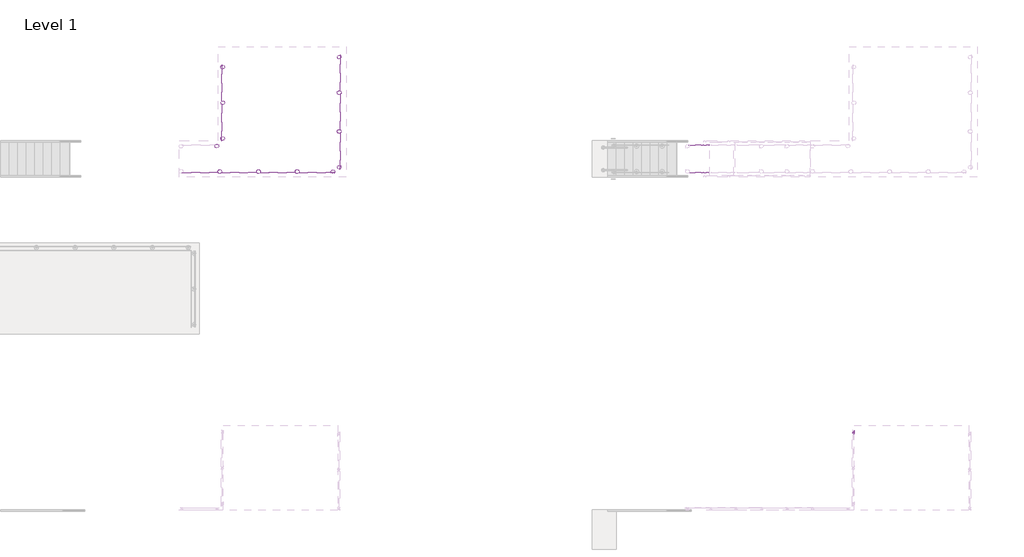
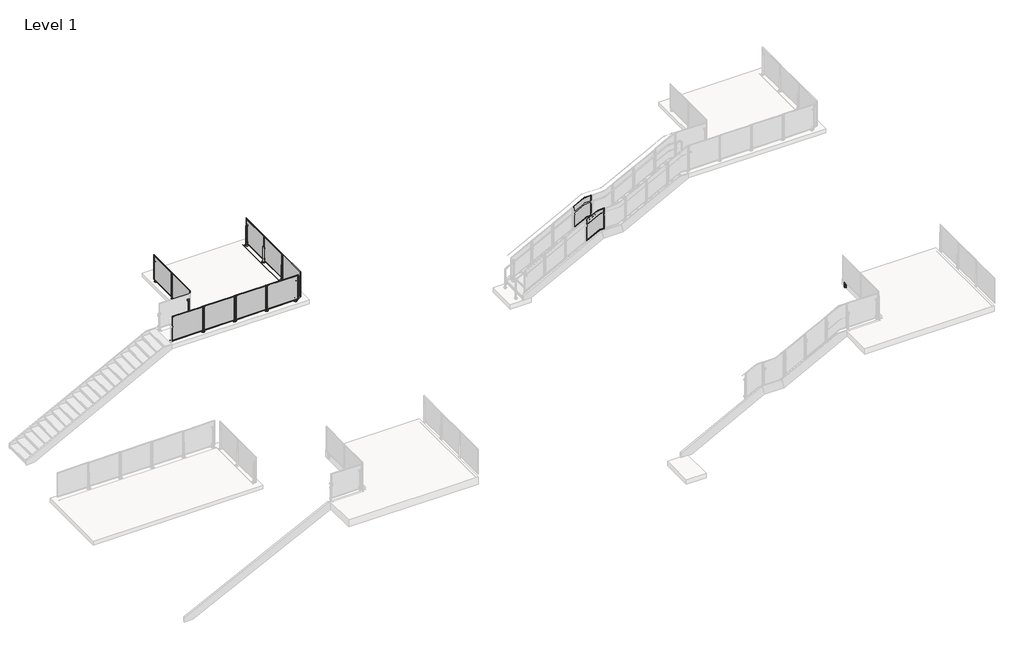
# One storey, part 22 of 28: 7 proxies, 5 railings.
"""IFC4 building model written with IfcOpenShell, lengths in millimetres."""

from ifc_helpers import new_model, si_unit, point, frame, frame_2d, origin, place, context, project, spatial, polyline, circle_curve, trimmed, segment, composite_curve, outline, extrude, transform, mapped, element, save
from components import building_element_proxy_d74b3768, building_element_proxy_f0dd287b, building_element_proxy_bc1e0d3e, standard_pp01_c8bfe862, standard_pp01_6f34aec3

model = new_model("IFC4")

# Units and contexts
model_context = context("Model", 3, world=origin())
ifc_project = project(units=[si_unit("LENGTHUNIT", "METRE", prefix="MILLI")], contexts=[model_context])

# Site, building, storey
site = spatial("IfcSite", under=ifc_project)
building = spatial("IfcBuilding", under=site)
storey = spatial("IfcBuildingStorey", under=building, Name="Level 1", Elevation=0.0)

# Proxies
placement = place(None, origin())
building_element_proxy_shape = building_element_proxy_d74b3768(model_context)
element("IfcBuildingElementProxy", 1, Name="Baluster-End-Post-VIVA-STRUC-Top Mount : CORED INTO CONCRETE_TOP MOUNT STRUC_STRAIGHT", ObjectType="Baluster-End-Post-VIVA-STRUC-Top Mount : CORED INTO CONCRETE_TOP MOUNT STRUC_STRAIGHT", at=placement, inside=storey, context=model_context, shape_type="MappedRepresentation", body=[
    mapped(building_element_proxy_shape, transform((-27921.9231424, 8555.589491, 3047.492), x_axis=(0.0, 1.0, 0.0), y_axis=(-1.0, 0.0, 0.0), z_axis=(0.0, 0.0, 1.0))),
])
building_element_proxy_2_shape = building_element_proxy_f0dd287b(model_context)
element("IfcBuildingElementProxy", 2, Name="Baluster-End-Post-VIVA-STRUC-Top Mount : WELDED Fascia MOUNT STRUC_STRAIGHT", ObjectType="Baluster-End-Post-VIVA-STRUC-Top Mount : WELDED Fascia MOUNT STRUC_STRAIGHT", at=placement, inside=storey, context=model_context, shape_type="MappedRepresentation", body=[
    mapped(building_element_proxy_2_shape, transform((-10837.0049728, 33.6273492, 3047.492), x_axis=(0.0, -1.0, 0.0), y_axis=(1.0, 0.0, 0.0), z_axis=(0.0, 0.0, 1.0))),
])
building_element_proxy_3_shape = building_element_proxy_bc1e0d3e(model_context)
element("IfcBuildingElementProxy", 3, Name="Baluster-End-Post-VIVA-STRUC-Top Mount : CORED INTO CONCRETE_TOP MOUNT STRUC_STRAIGHT", ObjectType="Baluster-End-Post-VIVA-STRUC-Top Mount : CORED INTO CONCRETE_TOP MOUNT STRUC_STRAIGHT", at=placement, inside=storey, context=model_context, shape_type="MappedRepresentation", body=[
    mapped(building_element_proxy_3_shape, transform((-27936.8813244, 8601.891307, 3047.492), x_axis=(1.0, 0.0, 0.0), y_axis=(0.0, 1.0, 0.0), z_axis=(0.0, 0.0, 1.0))),
])
element("IfcBuildingElementProxy", 4, Name="Baluster-End-Post-VIVA-STRUC-Top Mount : CORED INTO CONCRETE_TOP MOUNT STRUC_STRAIGHT", ObjectType="Baluster-End-Post-VIVA-STRUC-Top Mount : CORED INTO CONCRETE_TOP MOUNT STRUC_STRAIGHT", at=placement, inside=storey, context=model_context, shape_type="MappedRepresentation", body=[
    mapped(building_element_proxy_3_shape, transform((-31557.1485244, 9498.7985341, 3047.492), x_axis=(0.0, -1.0, 0.0), y_axis=(1.0, 0.0, 0.0), z_axis=(0.0, 0.0, 1.0))),
])
element("IfcBuildingElementProxy", 5, Name="Baluster-End-Post-VIVA-STRUC-Top Mount : CORED INTO CONCRETE_TOP MOUNT STRUC_STRAIGHT", ObjectType="Baluster-End-Post-VIVA-STRUC-Top Mount : CORED INTO CONCRETE_TOP MOUNT STRUC_STRAIGHT", at=placement, inside=storey, context=model_context, shape_type="MappedRepresentation", body=[
    mapped(building_element_proxy_shape, transform((-31557.1485244, 12038.7985341, 3047.492), x_axis=(0.0, -1.0, 0.0), y_axis=(1.0, 0.0, 0.0), z_axis=(0.0, 0.0, 1.0))),
])
element("IfcBuildingElementProxy", 6, Name="Baluster-End-Post-VIVA-STRUC-Top Mount : CORED INTO CONCRETE_TOP MOUNT STRUC_STRAIGHT", ObjectType="Baluster-End-Post-VIVA-STRUC-Top Mount : CORED INTO CONCRETE_TOP MOUNT STRUC_STRAIGHT", at=placement, inside=storey, context=model_context, shape_type="MappedRepresentation", body=[
    mapped(building_element_proxy_shape, transform((-31746.8813244, 9250.4962374, 3047.492), x_axis=(-1.0, 0.0, 0.0), y_axis=(0.0, -1.0, 0.0), z_axis=(0.0, 0.0, 1.0))),
])
element("IfcBuildingElementProxy", 7, Name="Baluster-End-Post-VIVA-STRUC-Top Mount : CORED INTO CONCRETE_TOP MOUNT STRUC_STRAIGHT", ObjectType="Baluster-End-Post-VIVA-STRUC-Top Mount : CORED INTO CONCRETE_TOP MOUNT STRUC_STRAIGHT", at=placement, inside=storey, context=model_context, shape_type="MappedRepresentation", body=[
    mapped(building_element_proxy_3_shape, transform((-27921.9231424, 12365.589491, 3047.492), x_axis=(0.0, 1.0, 0.0), y_axis=(-1.0, 0.0, 0.0), z_axis=(0.0, 0.0, 1.0))),
])

# Railings
element("IfcRailing", 8, ObjectType="Metal-Panel-VIVA-STRUC-Top_Core-Straight", at=placement, inside=storey, context=model_context, shape_type="SweptSolid", body=[
    extrude(outline(composite_curve([segment(trimmed(circle_curve(frame_2d((8601.891307, 3047.746)), 0.254), [point((8601.637307, 3047.746))], [point((8602.145307, 3047.746))], False, "CARTESIAN"), True, "CONTINUOUS"), segment(trimmed(circle_curve(frame_2d((8601.891307, 3047.746)), 0.254), [point((8602.145307, 3047.746))], [point((8601.637307, 3047.746))], False, "CARTESIAN"), True, "CONTINUOUS")], self_intersect=False)), frame((-33016.8813244, 0.0, 0.0), z_axis=(1.0, 0.0, 0.0), x_axis=(0.0, 1.0, 0.0)), (0.0, 0.0, 1.0), 5080.0),
    extrude(outline(composite_curve([segment(trimmed(circle_curve(frame_2d((8601.891307, 3047.746)), 0.254), [point((8601.637307, 3047.746))], [point((8602.145307, 3047.746))], False, "CARTESIAN"), True, "CONTINUOUS"), segment(trimmed(circle_curve(frame_2d((8601.891307, 3047.746)), 0.254), [point((8602.145307, 3047.746))], [point((8601.637307, 3047.746))], False, "CARTESIAN"), True, "CONTINUOUS")], self_intersect=False)), frame((-33016.8813244, 0.0, 0.0), z_axis=(1.0, 0.0, 0.0), x_axis=(0.0, 1.0, 0.0)), (0.0, 0.0, 1.0), 5080.0),
    extrude(outline(polyline([(-29166.0548675, 8475.042307), (-29166.0548675, 8478.042307), (-27977.7077814, 8478.042307), (-27977.7077814, 8475.042307), (-29166.0548675, 8475.042307)])), frame((0.0, 0.0, 3124.1959569), z_axis=(0.0, 0.0, 1.0), x_axis=(1.0, 0.0, 0.0)), (0.0, 0.0, 1.0), 990.5826861),
    extrude(outline(polyline([(3098.7959569, -29191.4548675), (3098.7959569, -27952.3077814), (4140.1786431, -27952.3077814), (4140.1786431, -29191.4548675), (3098.7959569, -29191.4548675)]), holes=[polyline([(4114.7786431, -29166.0548675), (4114.7786431, -27977.7077814), (3124.1959569, -27977.7077814), (3124.1959569, -29166.0548675), (4114.7786431, -29166.0548675)])]), frame((0.0, 8468.517307, 0.0), z_axis=(0.0, 1.0, 0.0), x_axis=(0.0, 0.0, 1.0)), (0.0, 0.0, 1.0), 9.525),
    extrude(outline(polyline([(-29244.9820437, 8485.152907), (-29168.7806052, 8485.152907), (-29168.7806052, 8478.040907), (-29244.9820437, 8478.040907), (-29244.9820437, 8485.152907)])), frame((0.0, 0.0, 3617.976), z_axis=(0.0, 0.0, 1.0), x_axis=(1.0, 0.0, 0.0)), (0.0, 0.0, 1.0), 50.8),
    extrude(outline(polyline([(-29244.9820437, 8485.152907), (-29168.7806052, 8485.152907), (-29168.7806052, 8478.040907), (-29244.9820437, 8478.040907), (-29244.9820437, 8485.152907)])), frame((0.0, 0.0, 3160.776), z_axis=(0.0, 0.0, 1.0), x_axis=(1.0, 0.0, 0.0)), (0.0, 0.0, 1.0), 50.8),
    extrude(outline(composite_curve([segment(trimmed(circle_curve(frame_2d((-29206.8813244, 8507.377907)), 65.8876), [point((-29206.8813244, 8441.490307))], [point((-29206.8813244, 8573.265507))], False, "CARTESIAN"), True, "CONTINUOUS"), segment(trimmed(circle_curve(frame_2d((-29206.8813244, 8507.377907)), 65.8876), [point((-29206.8813244, 8573.265507))], [point((-29206.8813244, 8441.490307))], False, "CARTESIAN"), True, "CONTINUOUS")], self_intersect=False)), frame((0.0, 0.0, 3048.0), z_axis=(0.0, 0.0, 1.0), x_axis=(1.0, 0.0, 0.0)), (0.0, 0.0, 1.0), 2.9821299),
    extrude(outline(polyline([(-29214.8209161, 8529.602907), (-29198.9417328, 8529.602907), (-29198.9417328, 8485.152907), (-29214.8209161, 8485.152907), (-29214.8209161, 8529.602907)])), frame((0.0, 0.0, 2946.4), z_axis=(0.0, 0.0, 1.0), x_axis=(1.0, 0.0, 0.0)), (0.0, 0.0, 1.0), 762.0),
    extrude(outline(polyline([(-30436.0548675, 8475.042307), (-30436.0548675, 8478.042307), (-29247.7077814, 8478.042307), (-29247.7077814, 8475.042307), (-30436.0548675, 8475.042307)])), frame((0.0, 0.0, 3124.1959569), z_axis=(0.0, 0.0, 1.0), x_axis=(1.0, 0.0, 0.0)), (0.0, 0.0, 1.0), 990.5826861),
    extrude(outline(polyline([(3098.7959569, -30461.4548675), (3098.7959569, -29222.3077814), (4140.1786431, -29222.3077814), (4140.1786431, -30461.4548675), (3098.7959569, -30461.4548675)]), holes=[polyline([(4114.7786431, -30436.0548675), (4114.7786431, -29247.7077814), (3124.1959569, -29247.7077814), (3124.1959569, -30436.0548675), (4114.7786431, -30436.0548675)])]), frame((0.0, 8468.517307, 0.0), z_axis=(0.0, 1.0, 0.0), x_axis=(0.0, 0.0, 1.0)), (0.0, 0.0, 1.0), 9.525),
    extrude(outline(polyline([(-30514.9820437, 8485.152907), (-30438.7806052, 8485.152907), (-30438.7806052, 8478.040907), (-30514.9820437, 8478.040907), (-30514.9820437, 8485.152907)])), frame((0.0, 0.0, 3617.976), z_axis=(0.0, 0.0, 1.0), x_axis=(1.0, 0.0, 0.0)), (0.0, 0.0, 1.0), 50.8),
    extrude(outline(polyline([(-30514.9820437, 8485.152907), (-30438.7806052, 8485.152907), (-30438.7806052, 8478.040907), (-30514.9820437, 8478.040907), (-30514.9820437, 8485.152907)])), frame((0.0, 0.0, 3160.776), z_axis=(0.0, 0.0, 1.0), x_axis=(1.0, 0.0, 0.0)), (0.0, 0.0, 1.0), 50.8),
    extrude(outline(composite_curve([segment(trimmed(circle_curve(frame_2d((-30476.8813244, 8507.377907)), 65.8876), [point((-30476.8813244, 8441.490307))], [point((-30476.8813244, 8573.265507))], False, "CARTESIAN"), True, "CONTINUOUS"), segment(trimmed(circle_curve(frame_2d((-30476.8813244, 8507.377907)), 65.8876), [point((-30476.8813244, 8573.265507))], [point((-30476.8813244, 8441.490307))], False, "CARTESIAN"), True, "CONTINUOUS")], self_intersect=False)), frame((0.0, 0.0, 3048.0), z_axis=(0.0, 0.0, 1.0), x_axis=(1.0, 0.0, 0.0)), (0.0, 0.0, 1.0), 2.9821299),
    extrude(outline(polyline([(-30484.8209161, 8529.602907), (-30468.9417328, 8529.602907), (-30468.9417328, 8485.152907), (-30484.8209161, 8485.152907), (-30484.8209161, 8529.602907)])), frame((0.0, 0.0, 2946.4), z_axis=(0.0, 0.0, 1.0), x_axis=(1.0, 0.0, 0.0)), (0.0, 0.0, 1.0), 762.0),
    extrude(outline(polyline([(-31706.0548675, 8475.042307), (-31706.0548675, 8478.042307), (-30517.7077814, 8478.042307), (-30517.7077814, 8475.042307), (-31706.0548675, 8475.042307)])), frame((0.0, 0.0, 3124.1959569), z_axis=(0.0, 0.0, 1.0), x_axis=(1.0, 0.0, 0.0)), (0.0, 0.0, 1.0), 990.5826861),
    extrude(outline(polyline([(3098.7959569, -31731.4548675), (3098.7959569, -30492.3077814), (4140.1786431, -30492.3077814), (4140.1786431, -31731.4548675), (3098.7959569, -31731.4548675)]), holes=[polyline([(4114.7786431, -31706.0548675), (4114.7786431, -30517.7077814), (3124.1959569, -30517.7077814), (3124.1959569, -31706.0548675), (4114.7786431, -31706.0548675)])]), frame((0.0, 8468.517307, 0.0), z_axis=(0.0, 1.0, 0.0), x_axis=(0.0, 0.0, 1.0)), (0.0, 0.0, 1.0), 9.525),
    extrude(outline(polyline([(-31784.9820437, 8485.152907), (-31708.7806052, 8485.152907), (-31708.7806052, 8478.040907), (-31784.9820437, 8478.040907), (-31784.9820437, 8485.152907)])), frame((0.0, 0.0, 3617.976), z_axis=(0.0, 0.0, 1.0), x_axis=(1.0, 0.0, 0.0)), (0.0, 0.0, 1.0), 50.8),
    extrude(outline(polyline([(-31784.9820437, 8485.152907), (-31708.7806052, 8485.152907), (-31708.7806052, 8478.040907), (-31784.9820437, 8478.040907), (-31784.9820437, 8485.152907)])), frame((0.0, 0.0, 3160.776), z_axis=(0.0, 0.0, 1.0), x_axis=(1.0, 0.0, 0.0)), (0.0, 0.0, 1.0), 50.8),
    extrude(outline(composite_curve([segment(trimmed(circle_curve(frame_2d((-31746.8813244, 8507.377907)), 65.8876), [point((-31746.8813244, 8441.490307))], [point((-31746.8813244, 8573.265507))], False, "CARTESIAN"), True, "CONTINUOUS"), segment(trimmed(circle_curve(frame_2d((-31746.8813244, 8507.377907)), 65.8876), [point((-31746.8813244, 8573.265507))], [point((-31746.8813244, 8441.490307))], False, "CARTESIAN"), True, "CONTINUOUS")], self_intersect=False)), frame((0.0, 0.0, 3048.0), z_axis=(0.0, 0.0, 1.0), x_axis=(1.0, 0.0, 0.0)), (0.0, 0.0, 1.0), 2.9821299),
    extrude(outline(polyline([(-31754.8209161, 8529.602907), (-31738.9417328, 8529.602907), (-31738.9417328, 8485.152907), (-31754.8209161, 8485.152907), (-31754.8209161, 8529.602907)])), frame((0.0, 0.0, 2946.4), z_axis=(0.0, 0.0, 1.0), x_axis=(1.0, 0.0, 0.0)), (0.0, 0.0, 1.0), 762.0),
    extrude(outline(polyline([(-32976.0548675, 8475.042307), (-32976.0548675, 8478.042307), (-31787.7077814, 8478.042307), (-31787.7077814, 8475.042307), (-32976.0548675, 8475.042307)])), frame((0.0, 0.0, 3124.1959569), z_axis=(0.0, 0.0, 1.0), x_axis=(1.0, 0.0, 0.0)), (0.0, 0.0, 1.0), 990.5826861),
    extrude(outline(polyline([(3098.7959569, -33001.4548675), (3098.7959569, -31762.3077814), (4140.1786431, -31762.3077814), (4140.1786431, -33001.4548675), (3098.7959569, -33001.4548675)]), holes=[polyline([(4114.7786431, -32976.0548675), (4114.7786431, -31787.7077814), (3124.1959569, -31787.7077814), (3124.1959569, -32976.0548675), (4114.7786431, -32976.0548675)])]), frame((0.0, 8468.517307, 0.0), z_axis=(0.0, 1.0, 0.0), x_axis=(0.0, 0.0, 1.0)), (0.0, 0.0, 1.0), 9.525),
])
element("IfcRailing", 9, ObjectType="Metal-Panel-VIVA-STRUC-Top_Core-Straight", at=placement, inside=storey, context=model_context, shape_type="SweptSolid", body=[
    extrude(outline(composite_curve([segment(trimmed(circle_curve(frame_2d((3047.746, -31557.1485244)), 0.254), [point((3047.746, -31556.8945244))], [point((3047.746, -31557.4025244))], False, "CARTESIAN"), True, "CONTINUOUS"), segment(trimmed(circle_curve(frame_2d((3047.746, -31557.1485244)), 0.254), [point((3047.746, -31557.4025244))], [point((3047.746, -31556.8945244))], False, "CARTESIAN"), True, "CONTINUOUS")], self_intersect=False)), frame((0.0, 9498.7985341, 0.0), z_axis=(0.0, 1.0, 0.0), x_axis=(0.0, 0.0, 1.0)), (0.0, 0.0, 1.0), 2540.0),
    extrude(outline(composite_curve([segment(trimmed(circle_curve(frame_2d((3047.746, -31557.1485244)), 0.254), [point((3047.746, -31556.8945244))], [point((3047.746, -31557.4025244))], False, "CARTESIAN"), True, "CONTINUOUS"), segment(trimmed(circle_curve(frame_2d((3047.746, -31557.1485244)), 0.254), [point((3047.746, -31557.4025244))], [point((3047.746, -31556.8945244))], False, "CARTESIAN"), True, "CONTINUOUS")], self_intersect=False)), frame((0.0, 9498.7985341, 0.0), z_axis=(0.0, 1.0, 0.0), x_axis=(0.0, 0.0, 1.0)), (0.0, 0.0, 1.0), 2540.0),
    extrude(outline(polyline([(-31683.9975244, 10809.624991), (-31683.9975244, 11997.9720772), (-31680.9975244, 11997.9720772), (-31680.9975244, 10809.624991), (-31683.9975244, 10809.624991)])), frame((0.0, 0.0, 3124.1959569), z_axis=(0.0, 0.0, 1.0), x_axis=(1.0, 0.0, 0.0)), (0.0, 0.0, 1.0), 990.5826861),
    extrude(outline(polyline([(10784.224991, 3098.7959569), (10784.224991, 4140.1786431), (12023.3720772, 4140.1786431), (12023.3720772, 3098.7959569), (10784.224991, 3098.7959569)]), holes=[polyline([(10809.624991, 4114.7786431), (10809.624991, 3124.1959569), (11997.9720772, 3124.1959569), (11997.9720772, 4114.7786431), (10809.624991, 4114.7786431)])]), frame((-31690.5225244, 0.0, 0.0), z_axis=(1.0, 0.0, 0.0), x_axis=(0.0, 1.0, 0.0)), (0.0, 0.0, 1.0), 9.525),
    extrude(outline(polyline([(-31673.8869244, 10730.6978149), (-31680.9989244, 10730.6978149), (-31680.9989244, 10806.8992534), (-31673.8869244, 10806.8992534), (-31673.8869244, 10730.6978149)])), frame((0.0, 0.0, 3617.976), z_axis=(0.0, 0.0, 1.0), x_axis=(1.0, 0.0, 0.0)), (0.0, 0.0, 1.0), 50.8),
    extrude(outline(polyline([(-31673.8869244, 10730.6978149), (-31680.9989244, 10730.6978149), (-31680.9989244, 10806.8992534), (-31673.8869244, 10806.8992534), (-31673.8869244, 10730.6978149)])), frame((0.0, 0.0, 3160.776), z_axis=(0.0, 0.0, 1.0), x_axis=(1.0, 0.0, 0.0)), (0.0, 0.0, 1.0), 50.8),
    extrude(outline(composite_curve([segment(trimmed(circle_curve(frame_2d((-31651.6619244, 10768.7985341)), 65.8876), [point((-31717.5495244, 10768.7985341))], [point((-31585.7743244, 10768.7985341))], False, "CARTESIAN"), True, "CONTINUOUS"), segment(trimmed(circle_curve(frame_2d((-31651.6619244, 10768.7985341)), 65.8876), [point((-31585.7743244, 10768.7985341))], [point((-31717.5495244, 10768.7985341))], False, "CARTESIAN"), True, "CONTINUOUS")], self_intersect=False)), frame((0.0, 0.0, 3048.0), z_axis=(0.0, 0.0, 1.0), x_axis=(1.0, 0.0, 0.0)), (0.0, 0.0, 1.0), 2.9821299),
    extrude(outline(polyline([(-31629.4369244, 10760.8589425), (-31673.8869244, 10760.8589425), (-31673.8869244, 10776.7381258), (-31629.4369244, 10776.7381258), (-31629.4369244, 10760.8589425)])), frame((0.0, 0.0, 2946.4), z_axis=(0.0, 0.0, 1.0), x_axis=(1.0, 0.0, 0.0)), (0.0, 0.0, 1.0), 762.0),
    extrude(outline(polyline([(-31683.9975244, 9539.624991), (-31683.9975244, 10727.9720772), (-31680.9975244, 10727.9720772), (-31680.9975244, 9539.624991), (-31683.9975244, 9539.624991)])), frame((0.0, 0.0, 3124.1959569), z_axis=(0.0, 0.0, 1.0), x_axis=(1.0, 0.0, 0.0)), (0.0, 0.0, 1.0), 990.5826861),
    extrude(outline(polyline([(9514.224991, 3098.7959569), (9514.224991, 4140.1786431), (10753.3720772, 4140.1786431), (10753.3720772, 3098.7959569), (9514.224991, 3098.7959569)]), holes=[polyline([(9539.624991, 4114.7786431), (9539.624991, 3124.1959569), (10727.9720772, 3124.1959569), (10727.9720772, 4114.7786431), (9539.624991, 4114.7786431)])]), frame((-31690.5225244, 0.0, 0.0), z_axis=(1.0, 0.0, 0.0), x_axis=(0.0, 1.0, 0.0)), (0.0, 0.0, 1.0), 9.525),
])
element("IfcRailing", 10, ObjectType="Metal-Panel-VIVA-STRUC-Top_Core-Straight", at=placement, inside=storey, context=model_context, shape_type="SweptSolid", body=[
    extrude(outline(composite_curve([segment(trimmed(circle_curve(frame_2d((3047.746, -27921.9231424)), 0.254), [point((3047.746, -27921.6691424))], [point((3047.746, -27922.1771424))], False, "CARTESIAN"), True, "CONTINUOUS"), segment(trimmed(circle_curve(frame_2d((3047.746, -27921.9231424)), 0.254), [point((3047.746, -27922.1771424))], [point((3047.746, -27921.6691424))], False, "CARTESIAN"), True, "CONTINUOUS")], self_intersect=False)), frame((0.0, 8555.589491, 0.0), z_axis=(0.0, 1.0, 0.0), x_axis=(0.0, 0.0, 1.0)), (0.0, 0.0, 1.0), 3810.0),
    extrude(outline(composite_curve([segment(trimmed(circle_curve(frame_2d((3047.746, -27921.9231424)), 0.254), [point((3047.746, -27921.6691424))], [point((3047.746, -27922.1771424))], False, "CARTESIAN"), True, "CONTINUOUS"), segment(trimmed(circle_curve(frame_2d((3047.746, -27921.9231424)), 0.254), [point((3047.746, -27922.1771424))], [point((3047.746, -27921.6691424))], False, "CARTESIAN"), True, "CONTINUOUS")], self_intersect=False)), frame((0.0, 8555.589491, 0.0), z_axis=(0.0, 1.0, 0.0), x_axis=(0.0, 0.0, 1.0)), (0.0, 0.0, 1.0), 3810.0),
    extrude(outline(polyline([(-27795.0741424, 11136.415948), (-27798.0741424, 11136.415948), (-27798.0741424, 12324.7630341), (-27795.0741424, 12324.7630341), (-27795.0741424, 11136.415948)])), frame((0.0, 0.0, 3124.1959569), z_axis=(0.0, 0.0, 1.0), x_axis=(1.0, 0.0, 0.0)), (0.0, 0.0, 1.0), 990.5826861),
    extrude(outline(polyline([(11111.015948, 4140.1786431), (12350.1630341, 4140.1786431), (12350.1630341, 3098.7959569), (11111.015948, 3098.7959569), (11111.015948, 4140.1786431)]), holes=[polyline([(11136.415948, 3124.1959569), (12324.7630341, 3124.1959569), (12324.7630341, 4114.7786431), (11136.415948, 4114.7786431), (11136.415948, 3124.1959569)])]), frame((-27798.0741424, 0.0, 0.0), z_axis=(1.0, 0.0, 0.0), x_axis=(0.0, 1.0, 0.0)), (0.0, 0.0, 1.0), 9.525),
    extrude(outline(polyline([(-27805.1847424, 11057.4887718), (-27805.1847424, 11133.6902103), (-27798.0727424, 11133.6902103), (-27798.0727424, 11057.4887718), (-27805.1847424, 11057.4887718)])), frame((0.0, 0.0, 3617.976), z_axis=(0.0, 0.0, 1.0), x_axis=(1.0, 0.0, 0.0)), (0.0, 0.0, 1.0), 50.8),
    extrude(outline(polyline([(-27805.1847424, 11057.4887718), (-27805.1847424, 11133.6902103), (-27798.0727424, 11133.6902103), (-27798.0727424, 11057.4887718), (-27805.1847424, 11057.4887718)])), frame((0.0, 0.0, 3160.776), z_axis=(0.0, 0.0, 1.0), x_axis=(1.0, 0.0, 0.0)), (0.0, 0.0, 1.0), 50.8),
    extrude(outline(composite_curve([segment(trimmed(circle_curve(frame_2d((-27827.4097424, 11095.589491)), 65.8876), [point((-27761.5221424, 11095.589491))], [point((-27893.2973424, 11095.589491))], False, "CARTESIAN"), True, "CONTINUOUS"), segment(trimmed(circle_curve(frame_2d((-27827.4097424, 11095.589491)), 65.8876), [point((-27893.2973424, 11095.589491))], [point((-27761.5221424, 11095.589491))], False, "CARTESIAN"), True, "CONTINUOUS")], self_intersect=False)), frame((0.0, 0.0, 3048.0), z_axis=(0.0, 0.0, 1.0), x_axis=(1.0, 0.0, 0.0)), (0.0, 0.0, 1.0), 2.9821299),
    extrude(outline(polyline([(-27849.6347424, 11087.6498994), (-27849.6347424, 11103.5290827), (-27805.1847424, 11103.5290827), (-27805.1847424, 11087.6498994), (-27849.6347424, 11087.6498994)])), frame((0.0, 0.0, 2946.4), z_axis=(0.0, 0.0, 1.0), x_axis=(1.0, 0.0, 0.0)), (0.0, 0.0, 1.0), 762.0),
    extrude(outline(polyline([(-27795.0741424, 9866.415948), (-27798.0741424, 9866.415948), (-27798.0741424, 11054.7630341), (-27795.0741424, 11054.7630341), (-27795.0741424, 9866.415948)])), frame((0.0, 0.0, 3124.1959569), z_axis=(0.0, 0.0, 1.0), x_axis=(1.0, 0.0, 0.0)), (0.0, 0.0, 1.0), 990.5826861),
    extrude(outline(polyline([(9841.015948, 4140.1786431), (11080.1630341, 4140.1786431), (11080.1630341, 3098.7959569), (9841.015948, 3098.7959569), (9841.015948, 4140.1786431)]), holes=[polyline([(9866.415948, 3124.1959569), (11054.7630341, 3124.1959569), (11054.7630341, 4114.7786431), (9866.415948, 4114.7786431), (9866.415948, 3124.1959569)])]), frame((-27798.0741424, 0.0, 0.0), z_axis=(1.0, 0.0, 0.0), x_axis=(0.0, 1.0, 0.0)), (0.0, 0.0, 1.0), 9.525),
    extrude(outline(polyline([(-27805.1847424, 9787.4887718), (-27805.1847424, 9863.6902103), (-27798.0727424, 9863.6902103), (-27798.0727424, 9787.4887718), (-27805.1847424, 9787.4887718)])), frame((0.0, 0.0, 3617.976), z_axis=(0.0, 0.0, 1.0), x_axis=(1.0, 0.0, 0.0)), (0.0, 0.0, 1.0), 50.8),
    extrude(outline(polyline([(-27805.1847424, 9787.4887718), (-27805.1847424, 9863.6902103), (-27798.0727424, 9863.6902103), (-27798.0727424, 9787.4887718), (-27805.1847424, 9787.4887718)])), frame((0.0, 0.0, 3160.776), z_axis=(0.0, 0.0, 1.0), x_axis=(1.0, 0.0, 0.0)), (0.0, 0.0, 1.0), 50.8),
    extrude(outline(composite_curve([segment(trimmed(circle_curve(frame_2d((-27827.4097424, 9825.589491)), 65.8876), [point((-27761.5221424, 9825.589491))], [point((-27893.2973424, 9825.589491))], False, "CARTESIAN"), True, "CONTINUOUS"), segment(trimmed(circle_curve(frame_2d((-27827.4097424, 9825.589491)), 65.8876), [point((-27893.2973424, 9825.589491))], [point((-27761.5221424, 9825.589491))], False, "CARTESIAN"), True, "CONTINUOUS")], self_intersect=False)), frame((0.0, 0.0, 3048.0), z_axis=(0.0, 0.0, 1.0), x_axis=(1.0, 0.0, 0.0)), (0.0, 0.0, 1.0), 2.9821299),
    extrude(outline(polyline([(-27849.6347424, 9817.6498994), (-27849.6347424, 9833.5290827), (-27805.1847424, 9833.5290827), (-27805.1847424, 9817.6498994), (-27849.6347424, 9817.6498994)])), frame((0.0, 0.0, 2946.4), z_axis=(0.0, 0.0, 1.0), x_axis=(1.0, 0.0, 0.0)), (0.0, 0.0, 1.0), 762.0),
    extrude(outline(polyline([(-27795.0741424, 8596.415948), (-27798.0741424, 8596.415948), (-27798.0741424, 9784.7630341), (-27795.0741424, 9784.7630341), (-27795.0741424, 8596.415948)])), frame((0.0, 0.0, 3124.1959569), z_axis=(0.0, 0.0, 1.0), x_axis=(1.0, 0.0, 0.0)), (0.0, 0.0, 1.0), 990.5826861),
    extrude(outline(polyline([(8571.015948, 4140.1786431), (9810.1630341, 4140.1786431), (9810.1630341, 3098.7959569), (8571.015948, 3098.7959569), (8571.015948, 4140.1786431)]), holes=[polyline([(8596.415948, 3124.1959569), (9784.7630341, 3124.1959569), (9784.7630341, 4114.7786431), (8596.415948, 4114.7786431), (8596.415948, 3124.1959569)])]), frame((-27798.0741424, 0.0, 0.0), z_axis=(1.0, 0.0, 0.0), x_axis=(0.0, 1.0, 0.0)), (0.0, 0.0, 1.0), 9.525),
])
standard_pp01_shape = standard_pp01_c8bfe862(model_context)
element("IfcRailing", 11, ObjectType="Baluster-Landing-Panel-VIVA-STRUC-Lower : Standard_PP01", at=placement, inside=storey, context=model_context, shape_type="MappedRepresentation", body=[
    mapped(standard_pp01_shape, transform((-16364.1715204, 8460.7792865, 1737.2220146), x_axis=(0.0, 1.0, 0.0), y_axis=(-1.0, 0.0, 0.0), z_axis=(0.0, 0.0, 1.0))),
])
standard_pp01_2_shape = standard_pp01_6f34aec3(model_context)
element("IfcRailing", 12, ObjectType="Baluster-Landing-Panel-VIVA-STRUC-Lower : Standard_PP01", at=placement, inside=storey, context=model_context, shape_type="MappedRepresentation", body=[
    mapped(standard_pp01_2_shape, transform((-16364.1715204, 9391.605858, 1737.2220146), x_axis=(0.0, -1.0, 0.0), y_axis=(1.0, 0.0, 0.0), z_axis=(0.0, 0.0, 1.0))),
])

save(model, "model.ifc")
